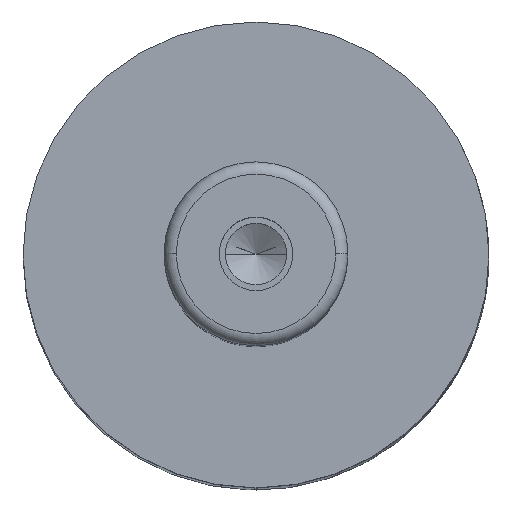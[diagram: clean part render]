
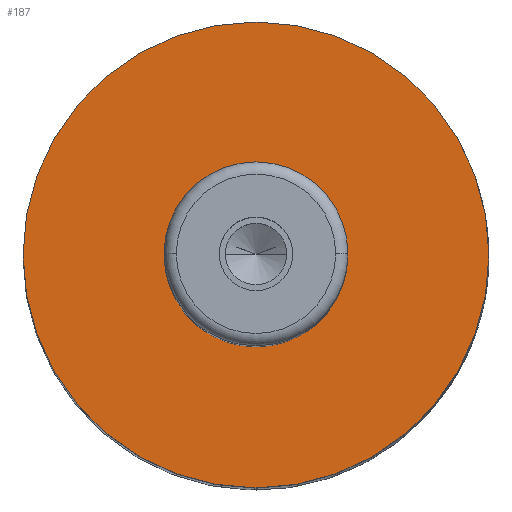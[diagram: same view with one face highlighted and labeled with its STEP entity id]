
A CAD part, top view. The second image highlights one B-rep face of the part: STEP entity #187.
In plain terms, the highlighted planar face has unit normal (0, 0, 1).
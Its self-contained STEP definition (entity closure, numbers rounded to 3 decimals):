
#109=PLANE('',#1002);
#132=FACE_BOUND('',#299,.T.);
#133=FACE_BOUND('',#300,.T.);
#187=ADVANCED_FACE('',(#132,#133),#109,.T.);
#299=EDGE_LOOP('',(#463,#464));
#300=EDGE_LOOP('',(#465,#466));
#367=CIRCLE('',#996,7.5);
#368=CIRCLE('',#998,7.5);
#369=CIRCLE('',#1000,19.);
#370=CIRCLE('',#1001,19.);
#463=ORIENTED_EDGE('',*,*,#766,.F.);
#464=ORIENTED_EDGE('',*,*,#767,.F.);
#465=ORIENTED_EDGE('',*,*,#765,.T.);
#466=ORIENTED_EDGE('',*,*,#763,.T.);
#676=VERTEX_POINT('',#1435);
#677=VERTEX_POINT('',#1437);
#678=VERTEX_POINT('',#1443);
#679=VERTEX_POINT('',#1444);
#763=EDGE_CURVE('',#677,#676,#367,.T.);
#765=EDGE_CURVE('',#676,#677,#368,.T.);
#766=EDGE_CURVE('',#678,#679,#369,.T.);
#767=EDGE_CURVE('',#679,#678,#370,.T.);
#996=AXIS2_PLACEMENT_3D('',#1436,#1150,#1151);
#998=AXIS2_PLACEMENT_3D('',#1440,#1155,#1156);
#1000=AXIS2_PLACEMENT_3D('',#1442,#1159,#1160);
#1001=AXIS2_PLACEMENT_3D('',#1445,#1161,#1162);
#1002=AXIS2_PLACEMENT_3D('',#1446,#1163,#1164);
#1150=DIRECTION('',(0.,0.,-1.));
#1151=DIRECTION('',(0.,1.,0.));
#1155=DIRECTION('',(0.,0.,-1.));
#1156=DIRECTION('',(0.,-1.,0.));
#1159=DIRECTION('',(0.,0.,-1.));
#1160=DIRECTION('',(0.,1.,0.));
#1161=DIRECTION('',(0.,0.,-1.));
#1162=DIRECTION('',(0.,-1.,0.));
#1163=DIRECTION('',(0.,0.,1.));
#1164=DIRECTION('',(0.,-1.,0.));
#1435=CARTESIAN_POINT('',(-7.5,0.,98.));
#1436=CARTESIAN_POINT('',(0.,0.,98.));
#1437=CARTESIAN_POINT('',(7.5,0.,98.));
#1440=CARTESIAN_POINT('',(0.,0.,98.));
#1442=CARTESIAN_POINT('',(0.,0.,98.));
#1443=CARTESIAN_POINT('',(19.,0.,98.));
#1444=CARTESIAN_POINT('',(-19.,0.,98.));
#1445=CARTESIAN_POINT('',(0.,0.,98.));
#1446=CARTESIAN_POINT('',(0.,0.,98.));
